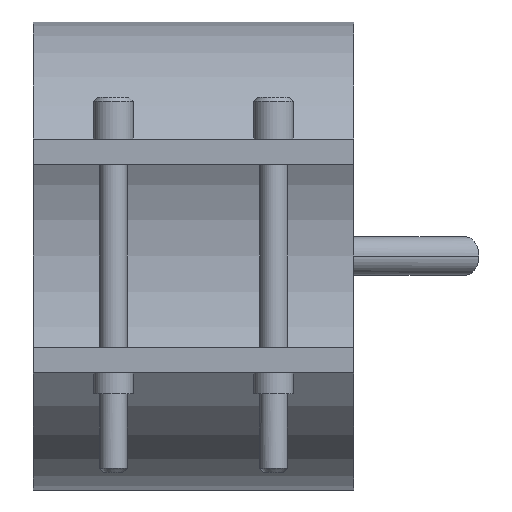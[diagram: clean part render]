
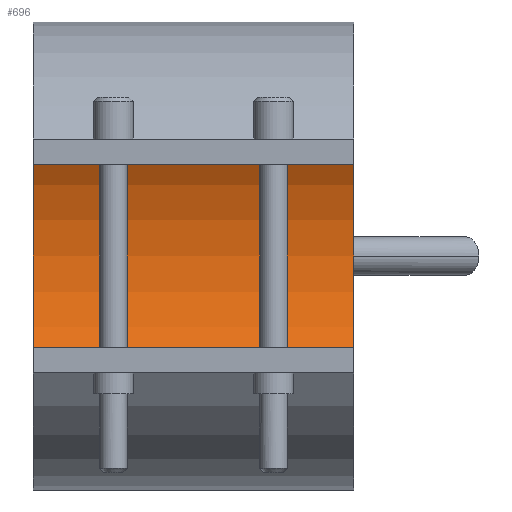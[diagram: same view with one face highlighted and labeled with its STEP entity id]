
A CAD part, front view. The second image highlights one B-rep face of the part: STEP entity #696.
In plain terms, the highlighted cylindrical face has radius 32.5 mm (diameter 65 mm), a partial arc.
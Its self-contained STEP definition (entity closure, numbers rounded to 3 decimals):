
#366=CARTESIAN_POINT('Vertex',(25.,0.,32.5)) ;
#371=CARTESIAN_POINT('Axis2P3D Location',(25.,0.,0.)) ;
#375=CARTESIAN_POINT('Vertex',(25.,0.,-32.5)) ;
#482=CARTESIAN_POINT('Vertex',(-25.,0.,-32.5)) ;
#485=CARTESIAN_POINT('Axis2P3D Location',(-25.,0.,0.)) ;
#489=CARTESIAN_POINT('Vertex',(-25.,0.,32.5)) ;
#668=CARTESIAN_POINT('Line Origine',(25.,0.,32.5)) ;
#680=CARTESIAN_POINT('Axis2P3D Location',(25.,0.,0.)) ;
#685=CARTESIAN_POINT('Line Origine',(25.,0.,-32.5)) ;
#372=DIRECTION('Axis2P3D Direction',(1.,0.,0.)) ;
#486=DIRECTION('Axis2P3D Direction',(1.,0.,0.)) ;
#669=DIRECTION('Vector Direction',(1.,0.,0.)) ;
#681=DIRECTION('Axis2P3D Direction',(1.,0.,-0.)) ;
#682=DIRECTION('Axis2P3D XDirection',(0.,0.,-1.)) ;
#686=DIRECTION('Vector Direction',(1.,0.,0.)) ;
#373=AXIS2_PLACEMENT_3D('Circle Axis2P3D',#371,#372,$) ;
#487=AXIS2_PLACEMENT_3D('Circle Axis2P3D',#485,#486,$) ;
#683=AXIS2_PLACEMENT_3D('Cylinder Axis2P3D',#680,#681,#682) ;
#691=ORIENTED_EDGE('',*,*,#377,.T.) ;
#692=ORIENTED_EDGE('',*,*,#672,.T.) ;
#693=ORIENTED_EDGE('',*,*,#491,.F.) ;
#694=ORIENTED_EDGE('',*,*,#689,.T.) ;
#670=VECTOR('Line Direction',#669,1.) ;
#687=VECTOR('Line Direction',#686,1.) ;
#696=ADVANCED_FACE('29065050',(#695),#684,.F.) ;
#374=CIRCLE('generated circle',#373,32.5) ;
#488=CIRCLE('generated circle',#487,32.5) ;
#684=CYLINDRICAL_SURFACE('generated cylinder',#683,32.5) ;
#377=EDGE_CURVE('',#376,#367,#374,.T.) ;
#491=EDGE_CURVE('',#483,#490,#488,.T.) ;
#672=EDGE_CURVE('',#367,#490,#671,.F.) ;
#689=EDGE_CURVE('',#483,#376,#688,.T.) ;
#690=EDGE_LOOP('',(#691,#692,#693,#694)) ;
#695=FACE_OUTER_BOUND('',#690,.T.) ;
#671=LINE('Line',#668,#670) ;
#688=LINE('Line',#685,#687) ;
#367=VERTEX_POINT('',#366) ;
#376=VERTEX_POINT('',#375) ;
#483=VERTEX_POINT('',#482) ;
#490=VERTEX_POINT('',#489) ;
